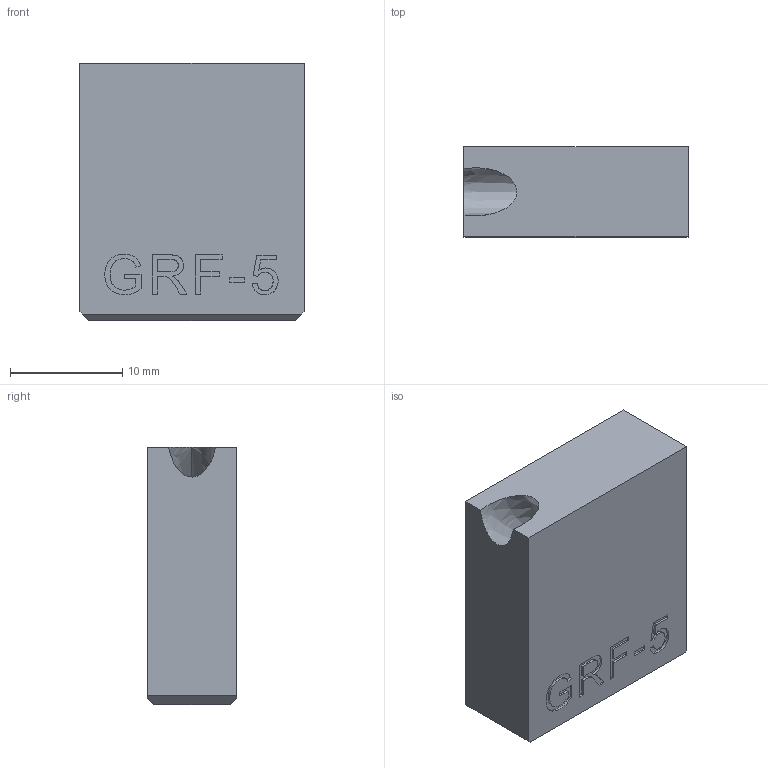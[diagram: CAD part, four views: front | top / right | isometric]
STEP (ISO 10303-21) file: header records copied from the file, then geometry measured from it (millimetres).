
FILE_DESCRIPTION(('FreeCAD Model'),'2;1');
FILE_NAME('Open CASCADE Shape Model','2023-10-19T10:47:49',( 'Wilfried Renkel'),('EXAflow GmbH % Co. KG'), 'Open CASCADE STEP processor 7.6','FreeCAD','Unknown');
FILE_SCHEMA(('AP242_MANAGED_MODEL_BASED_3D_ENGINEERING_MIM_LF. {1 0 10303 442 1 1 4 }'));
Length unit declared in the file: millimetre
Products named in the file (1): GRF-5_Ringelflow_Cut005
Bounding box: 20 x 8 x 23 mm (x, y, z)
Volume: 3315.2 mm3; surface area: 1969.9 mm2
Topology: 1 solids, 1 shells, 306 faces, 872 edges, 578 vertices
Faces by surface type: extrusion 233, plane 57, bspline 11, sphere 2, cone 1, cylinder 1, torus 1
Full cylindrical faces by diameter (mm): 3.3 x1
Entity records: 27539 total; most frequent: CARTESIAN_POINT 12600, ORIENTED_EDGE 1740, PCURVE 1740, DEFINITIONAL_REPRESENTATION 1740, DIRECTION 1678, VECTOR 1538, B_SPLINE_CURVE_WITH_KNOTS 1529, LINE 1305
